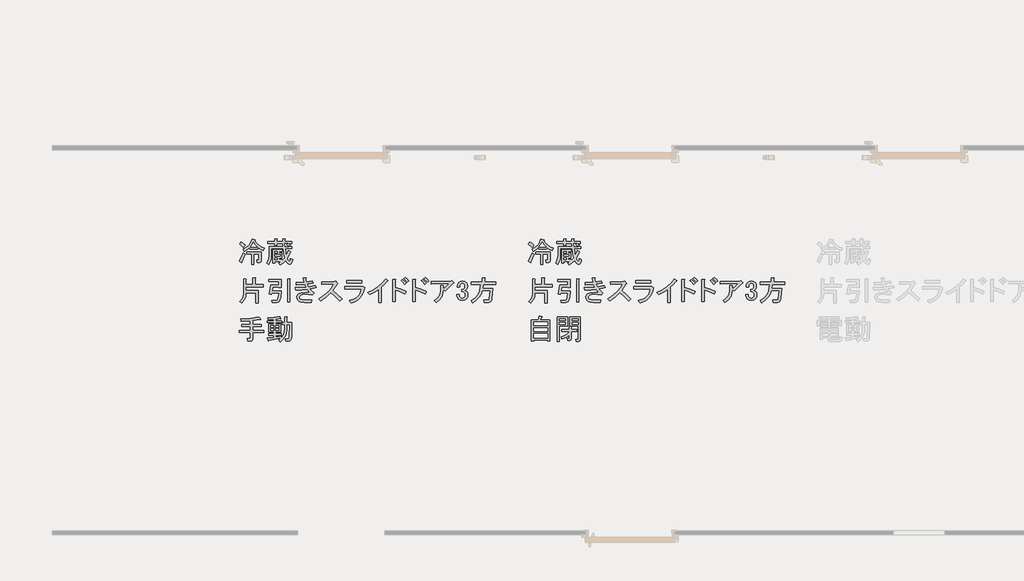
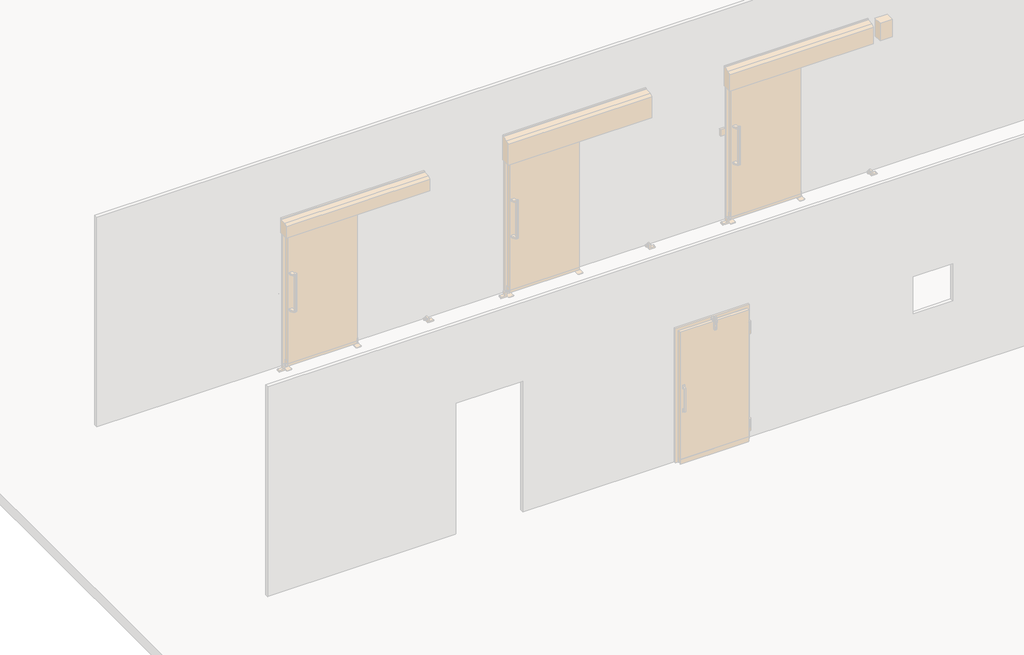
# One storey, part 75 of 117: 2 proxies.
"""IFC4 building model written with IfcOpenShell, lengths in millimetres."""

from ifc_helpers import new_model, si_unit, frame, origin, place, context, project, spatial, polyline, outline, extrude, element, save

model = new_model("IFC4")

# Units and contexts
model_context = context("Model", 3, world=origin())
ifc_project = project(units=[si_unit("LENGTHUNIT", "METRE", prefix="MILLI")], contexts=[model_context])

# Site, building, storey
site = spatial("IfcSite", under=ifc_project)
building = spatial("IfcBuilding", under=site)
storey = spatial("IfcBuildingStorey", under=building, Name="レベル 1", Elevation=500.0)

# Proxies
placement = place(None, origin())
element("IfcBuildingElementProxy", 1, Name="200㎜\u3000MS Pゴシック", ObjectType="200㎜\u3000MS Pゴシック", at=placement, inside=storey, context=model_context, shape_type="SweptSolid", body=[
    extrude(outline(polyline([(-24116.3970532, 22948.5050774), (-24082.7035553, 22967.9021871), (-24056.3378543, 22991.6097656), (-24037.2999504, 23019.6278129), (-24025.5898434, 23051.9563291), (-23994.5544679, 23043.9101206), (-23993.117645, 23040.174381), (-23998.002843, 23038.1628289), (-23979.1804624, 23010.6476696), (-23956.0476131, 22987.874026), (-23928.6042949, 22969.8418981), (-23896.850508, 22956.5512859), (-23908.3450915, 22932.4126605), (-23937.3689149, 22945.9187961), (-23966.9674674, 22965.7469527), (-23966.9674674, 22946.2061607), (-24049.7284688, 22946.2061607), (-24049.7284688, 22964.5974943), (-24074.1544588, 22942.7577856), (-24103.7530113, 22923.2169937), (-24116.3970532, 22948.5050774)]), holes=[polyline([(-23969.2663841, 22968.0458694), (-23995.4165617, 22995.3455052), (-24011.7963432, 23022.0704119), (-24025.5898434, 22993.0465885), (-24046.2800937, 22968.0458694), (-23969.2663841, 22968.0458694)])]), frame((0.0, 0.0, 500.0), z_axis=(0.0, 0.0, 1.0), x_axis=(1.0, 0.0, 0.0)), (0.0, 0.0, 1.0), 25.0),
    extrude(outline(polyline([(-24158.9270122, 22822.0646587), (-24135.9378452, 22861.7209718), (-24117.5465116, 22904.82566), (-24096.8562612, 22892.1816181), (-24114.3855011, 22848.2148362), (-24132.4894701, 22812.8689919), (-24133.0641993, 22806.5469709), (-24137.0873035, 22805.9722417), (-24158.9270122, 22822.0646587)])), frame((0.0, 0.0, 500.0), z_axis=(0.0, 0.0, 1.0), x_axis=(1.0, 0.0, 0.0)), (0.0, 0.0, 1.0), 25.0),
    extrude(outline(polyline([(-24079.6143859, 22897.9289099), (-24079.6143859, 22919.7686186), (-23930.1848002, 22919.7686186), (-23930.1848002, 22825.5130337), (-23934.2079044, 22814.3058148), (-23946.2772171, 22810.5700752), (-23971.5653009, 22810.5700752), (-23976.1631343, 22832.4097838), (-23957.7718006, 22832.4097838), (-23954.3234256, 22833.5592422), (-23953.1739672, 22837.0076172), (-23953.1739672, 22897.9289099), (-24007.1985098, 22897.9289099), (-24007.1985098, 22786.4314498), (-24030.1876768, 22786.4314498), (-24030.1876768, 22897.9289099), (-24079.6143859, 22897.9289099)])), frame((0.0, 0.0, 500.0), z_axis=(0.0, 0.0, 1.0), x_axis=(1.0, 0.0, 0.0)), (0.0, 0.0, 1.0), 25.0),
    extrude(outline(polyline([(-24141.685137, 23022.0704119), (-24120.9948866, 23009.1390055), (-24098.0057196, 22988.7361197), (-24114.0981365, 22965.7469527), (-24155.4786372, 23000.2307032), (-24141.685137, 23022.0704119)])), frame((0.0, 0.0, 500.0), z_axis=(0.0, 0.0, 1.0), x_axis=(1.0, 0.0, 0.0)), (0.0, 0.0, 1.0), 25.0),
    extrude(outline(polyline([(-23711.7877133, 22826.6624921), (-23685.3501712, 22853.1000342), (-23695.4079318, 22900.8025558), (-23700.2931298, 22954.2523692), (-23825.5840901, 22954.2523692), (-23825.5840901, 22879.5375763), (-23827.1645954, 22853.5310811), (-23831.9061111, 22829.536138), (-23839.8086373, 22807.552747), (-23850.8721739, 22787.5809081), (-23871.5624242, 22803.673325), (-23861.5046636, 22821.9209764), (-23854.3205489, 22842.1801798), (-23848.5732572, 22888.7332431), (-23848.5732572, 22976.0920778), (-23701.4425881, 22976.0920778), (-23701.4425881, 22987.5866614), (-23708.3393382, 22987.5866614), (-23708.3393382, 23005.977995), (-23768.1111725, 23005.977995), (-23768.1111725, 22984.1382863), (-23791.1003396, 22984.1382863), (-23791.1003396, 23005.977995), (-23860.0678407, 23005.977995), (-23860.0678407, 23027.8177037), (-23791.1003396, 23027.8177037), (-23791.1003396, 23053.1057874), (-23769.2606309, 23053.1057874), (-23764.3754329, 23050.8068707), (-23768.1111725, 23046.2090373), (-23768.1111725, 23027.8177037), (-23708.3393382, 23027.8177037), (-23708.3393382, 23053.1057874), (-23686.4996295, 23053.1057874), (-23681.6144316, 23050.8068707), (-23685.3501712, 23046.2090373), (-23685.3501712, 23027.8177037), (-23615.2332117, 23027.8177037), (-23615.2332117, 23005.977995), (-23652.015879, 23005.977995), (-23629.0267119, 22989.8855781), (-23642.8202122, 22976.0920778), (-23614.0837534, 22976.0920778), (-23614.0837534, 22954.2523692), (-23678.4534211, 22954.2523692), (-23669.2577543, 22877.2386596), (-23649.7169623, 22932.4126605), (-23626.7277952, 22922.0675353), (-23623.2794202, 22918.3317957), (-23629.0267119, 22916.3202435), (-23642.245483, 22882.4112222), (-23658.9126291, 22849.6516591), (-23646.8433164, 22828.099315), (-23635.9234621, 22820.9152003), (-23631.9003578, 22824.3635754), (-23629.0267119, 22834.7087005), (-23626.7277952, 22849.6516591), (-23604.8880866, 22841.6054507), (-23608.3364616, 22824.3635754), (-23617.819493, 22798.5007625), (-23624.5007197, 22792.0350592), (-23632.475087, 22789.8798248), (-23642.3891653, 22792.394265), (-23652.5906082, 22799.9375854), (-23673.8555877, 22830.1108671), (-23703.4541402, 22802.5238667), (-23730.1790469, 22784.1325331), (-23746.2714639, 22804.8227834), (-23723.2822968, 22818.6162836), (-23789.9508812, 22818.6162836), (-23789.9508812, 22801.3744083), (-23809.4916732, 22801.3744083), (-23809.4916732, 22942.7577856), (-23710.6382549, 22942.7577856), (-23710.6382549, 22924.366452), (-23743.9725471, 22924.366452), (-23743.9725471, 22908.2740351), (-23715.2360883, 22908.2740351), (-23715.2360883, 22855.3989509), (-23743.9725471, 22855.3989509), (-23743.9725471, 22837.0076172), (-23711.7877133, 22837.0076172), (-23711.7877133, 22826.6624921)]), holes=[polyline([(-23680.7523378, 22988.7361197), (-23675.8671398, 22986.1498384), (-23679.6028794, 22982.988828), (-23679.6028794, 22976.0920778), (-23646.2685872, 22976.0920778), (-23669.2577543, 22993.3339531), (-23656.6137124, 23005.977995), (-23685.3501712, 23005.977995), (-23685.3501712, 22988.7361197), (-23680.7523378, 22988.7361197)]), polyline([(-23789.9508812, 22908.2740351), (-23763.5133391, 22908.2740351), (-23763.5133391, 22924.366452), (-23789.9508812, 22924.366452), (-23789.9508812, 22908.2740351)]), polyline([(-23789.9508812, 22873.7902845), (-23734.7768803, 22873.7902845), (-23734.7768803, 22889.8827014), (-23789.9508812, 22889.8827014), (-23789.9508812, 22873.7902845)]), polyline([(-23789.9508812, 22837.0076172), (-23763.5133391, 22837.0076172), (-23763.5133391, 22855.3989509), (-23789.9508812, 22855.3989509), (-23789.9508812, 22837.0076172)])]), frame((0.0, 0.0, 500.0), z_axis=(0.0, 0.0, 1.0), x_axis=(1.0, 0.0, 0.0)), (0.0, 0.0, 1.0), 25.0),
    extrude(outline(polyline([(-24091.1089695, 22637.0133705), (-24085.0743131, 22633.5649954), (-24089.9595111, 22627.8177037), (-24089.9595111, 22579.5404529), (-24018.6930933, 22579.5404529), (-24018.6930933, 22648.507954), (-23993.4050095, 22648.507954), (-23987.3703532, 22645.059579), (-23992.2555512, 22639.3122872), (-23992.2555512, 22579.5404529), (-23907.1956331, 22579.5404529), (-23907.1956331, 22554.2523692), (-24089.9595111, 22554.2523692), (-24089.9595111, 22517.4697019), (-23960.0707173, 22517.4697019), (-23960.0707173, 22388.7303665), (-23986.5082594, 22388.7303665), (-23986.5082594, 22492.1816181), (-24089.9595111, 22492.1816181), (-24089.9595111, 22480.6870346), (-24092.6894747, 22453.7466045), (-24100.8793655, 22429.2487734), (-24114.5291834, 22407.1935412), (-24133.6389285, 22387.5809081), (-24152.0302621, 22405.9722417), (-24134.9320691, 22421.5617706), (-24122.7190741, 22439.5938985), (-24115.3912772, 22460.0686254), (-24112.9486782, 22482.9859513), (-24112.9486782, 22637.0133705), (-24091.1089695, 22637.0133705)])), frame((0.0, 0.0, 500.0), z_axis=(0.0, 0.0, 1.0), x_axis=(1.0, 0.0, 0.0)), (0.0, 0.0, 1.0), 25.0),
    extrude(outline(polyline([(-23719.8339218, 22511.7224101), (-23729.0295886, 22441.8928152), (-23735.3516095, 22419.2628539), (-23742.8230888, 22404.8227834), (-23753.4555786, 22397.0639395), (-23769.2606309, 22394.4776582), (-23815.238965, 22394.4776582), (-23818.68734, 22416.3173669), (-23776.157381, 22416.3173669), (-23765.5248912, 22418.328919), (-23758.9155057, 22424.3635754), (-23750.8692973, 22448.2148362), (-23745.1220055, 22489.8827014), (-23822.1357151, 22489.8827014), (-23824.4346318, 22478.3881179), (-23848.5732572, 22481.836493), (-23832.4808403, 22574.9426195), (-23746.2714639, 22574.9426195), (-23746.2714639, 22611.7252868), (-23852.0216322, 22611.7252868), (-23852.0216322, 22633.5649954), (-23723.2822968, 22633.5649954), (-23723.2822968, 22547.355619), (-23746.2714639, 22547.355619), (-23746.2714639, 22553.1029108), (-23810.6411316, 22553.1029108), (-23817.5378817, 22511.7224101), (-23719.8339218, 22511.7224101)])), frame((0.0, 0.0, 500.0), z_axis=(0.0, 0.0, 1.0), x_axis=(1.0, 0.0, 0.0)), (0.0, 0.0, 1.0), 25.0),
    extrude(outline(polyline([(-23633.6245454, 22396.7765749), (-23656.6137124, 22396.7765749), (-23656.6137124, 22637.0133705), (-23634.7740037, 22637.0133705), (-23629.8888057, 22634.7144538), (-23633.6245454, 22630.1166204), (-23633.6245454, 22396.7765749)])), frame((0.0, 0.0, 500.0), z_axis=(0.0, 0.0, 1.0), x_axis=(1.0, 0.0, 0.0)), (0.0, 0.0, 1.0), 25.0),
    extrude(outline(polyline([(-23453.1595841, 22582.988828), (-23439.3660839, 22554.2523692), (-23366.9502077, 22570.3447861), (-23356.6050825, 22546.2061607), (-23426.722042, 22533.5621188), (-23406.8938854, 22511.147681), (-23381.8931663, 22489.8827014), (-23401.4339582, 22470.3419095), (-23438.5039901, 22477.2386596), (-23466.9530843, 22479.5375763), (-23504.8852099, 22476.0892012), (-23517.8166164, 22471.7787324), (-23526.7249186, 22465.7440761), (-23532.759575, 22457.410503), (-23534.7711271, 22448.5022008), (-23533.0469395, 22438.1570756), (-23527.874377, 22430.1108671), (-23510.3451371, 22423.214117), (-23476.1487511, 22420.9152003), (-23406.0317916, 22420.9152003), (-23410.6296251, 22395.6271166), (-23480.7465845, 22395.6271166), (-23519.8281685, 22400.22495), (-23534.1963979, 22405.9722417), (-23545.1162522, 22414.0184502), (-23555.4613774, 22429.8235025), (-23558.9097525, 22449.6516591), (-23555.748742, 22465.7440761), (-23546.2657106, 22479.5375763), (-23533.9090333, 22488.0866728), (-23516.3797934, 22494.1931703), (-23465.803626, 22499.0783683), (-23424.4231253, 22495.6299932), (-23453.1595841, 22528.9642854), (-23509.7704079, 22523.7917228), (-23571.5537943, 22522.0675353), (-23575.0021694, 22546.2061607), (-23518.103981, 22546.7808899), (-23464.6541676, 22550.8039941), (-23477.2982095, 22579.5404529), (-23565.8065026, 22576.0920778), (-23568.1054193, 22599.0812449), (-23483.0455012, 22601.3801616), (-23492.2411681, 22648.507954), (-23466.9530843, 22648.507954), (-23460.918428, 22645.059579), (-23465.803626, 22639.3122872), (-23460.0563342, 22604.8285366), (-23399.1350415, 22616.3231202), (-23391.0888331, 22593.3339531), (-23453.1595841, 22582.988828)])), frame((0.0, 0.0, 500.0), z_axis=(0.0, 0.0, 1.0), x_axis=(1.0, 0.0, 0.0)), (0.0, 0.0, 1.0), 25.0),
    extrude(outline(polyline([(-23188.7381848, 22517.4697019), (-23139.5988402, 22476.6639304), (-23091.0342249, 22430.1108671), (-23114.0233919, 22410.5700752), (-23161.4385489, 22457.1231384), (-23207.1295184, 22495.6299932), (-23255.1194046, 22449.9390237), (-23309.4313117, 22409.4206168), (-23331.2710204, 22428.9614088), (-23275.8096549, 22468.6177219), (-23231.2681438, 22508.2740351), (-23197.646487, 22547.9303482), (-23174.9446846, 22587.5866614), (-23300.2356449, 22579.5404529), (-23303.68402, 22607.1274534), (-23170.3468511, 22612.8747451), (-23156.5533509, 22616.3231202), (-23138.1620173, 22597.9317865), (-23135.2883714, 22591.322401), (-23142.7598507, 22587.5866614), (-23188.7381848, 22517.4697019)])), frame((0.0, 0.0, 500.0), z_axis=(0.0, 0.0, 1.0), x_axis=(1.0, 0.0, 0.0)), (0.0, 0.0, 1.0), 25.0),
    extrude(outline(polyline([(-23014.7101903, 22411.7195335), (-22965.0679577, 22430.039026), (-22944.8267145, 22442.1622195), (-22927.6387201, 22456.2610446), (-22913.5039744, 22472.3355013), (-22902.4224775, 22490.3855895), (-22894.3942293, 22510.4113092), (-22889.4192299, 22532.4126605), (-23064.1368994, 22532.4126605), (-23064.1368994, 22557.7007442), (-22888.2697716, 22557.7007442), (-22877.9246464, 22561.1491193), (-22857.234396, 22548.5050774), (-22854.3607502, 22543.0451502), (-22859.5333128, 22538.1599522), (-22865.6577705, 22510.6807135), (-22874.8354771, 22485.7159149), (-22887.0664323, 22463.2655565), (-22902.3506364, 22443.3296382), (-22920.6880891, 22425.90816), (-22942.0787907, 22411.001122), (-22966.5227409, 22398.6085242), (-22994.0199399, 22388.7303665), (-23014.7101903, 22411.7195335)])), frame((0.0, 0.0, 500.0), z_axis=(0.0, 0.0, 1.0), x_axis=(1.0, 0.0, 0.0)), (0.0, 0.0, 1.0), 25.0),
    extrude(outline(polyline([(-22884.8213965, 22597.9317865), (-23043.4466491, 22597.9317865), (-23043.4466491, 22623.2198703), (-22884.8213965, 22623.2198703), (-22884.8213965, 22597.9317865)])), frame((0.0, 0.0, 500.0), z_axis=(0.0, 0.0, 1.0), x_axis=(1.0, 0.0, 0.0)), (0.0, 0.0, 1.0), 25.0),
    extrude(outline(polyline([(-22822.3368405, 22496.7794516), (-22765.6541755, 22524.6538166), (-22716.2993075, 22557.7007442), (-22674.2722365, 22595.9202344), (-22639.5729625, 22639.3122872), (-22617.7332538, 22620.9209536), (-22615.1469725, 22614.8862972), (-22625.7794623, 22610.5758284), (-22650.7801814, 22581.552005), (-22682.1029215, 22551.9534525), (-22682.1029215, 22395.6271166), (-22708.5404636, 22395.6271166), (-22708.5404636, 22530.1137438), (-22752.219881, 22500.5151912), (-22802.7960485, 22473.7902845), (-22822.3368405, 22496.7794516)])), frame((0.0, 0.0, 500.0), z_axis=(0.0, 0.0, 1.0), x_axis=(1.0, 0.0, 0.0)), (0.0, 0.0, 1.0), 25.0),
    extrude(outline(polyline([(-22439.6591659, 22581.8393696), (-22459.1999579, 22603.6790783), (-22478.7407499, 22620.9209536), (-22463.7977913, 22632.4155371), (-22444.2569993, 22615.1736618), (-22424.7162073, 22593.3339531), (-22439.6591659, 22581.8393696)])), frame((0.0, 0.0, 500.0), z_axis=(0.0, 0.0, 1.0), x_axis=(1.0, 0.0, 0.0)), (0.0, 0.0, 1.0), 25.0),
    extrude(outline(polyline([(-22412.0721655, 22603.6790783), (-22429.0266762, 22622.9325057), (-22450.0042911, 22641.6112039), (-22435.0613325, 22653.1057874), (-22415.8079051, 22636.7260059), (-22397.1292069, 22615.1736618), (-22412.0721655, 22603.6790783)])), frame((0.0, 0.0, 500.0), z_axis=(0.0, 0.0, 1.0), x_axis=(1.0, 0.0, 0.0)), (0.0, 0.0, 1.0), 25.0),
    extrude(outline(polyline([(-22437.3602492, 22480.6870346), (-22492.8216147, 22506.5498475), (-22537.3631258, 22522.0675353), (-22537.3631258, 22402.5238667), (-22563.8006679, 22402.5238667), (-22563.8006679, 22632.4155371), (-22540.8115009, 22632.4155371), (-22533.052657, 22629.5418912), (-22537.3631258, 22623.2198703), (-22537.3631258, 22550.8039941), (-22480.752302, 22531.8379313), (-22423.566749, 22507.1245767), (-22437.3602492, 22480.6870346)])), frame((0.0, 0.0, 500.0), z_axis=(0.0, 0.0, 1.0), x_axis=(1.0, 0.0, 0.0)), (0.0, 0.0, 1.0), 25.0),
    extrude(outline(polyline([(-22228.4346991, 22480.6870346), (-22283.8960646, 22506.5498475), (-22328.4375758, 22522.0675353), (-22328.4375758, 22402.5238667), (-22354.8751179, 22402.5238667), (-22354.8751179, 22632.4155371), (-22331.8859508, 22632.4155371), (-22324.127107, 22629.5418912), (-22328.4375758, 22623.2198703), (-22328.4375758, 22550.8039941), (-22271.8267519, 22531.8379313), (-22214.6411989, 22507.1245767), (-22228.4346991, 22480.6870346)])), frame((0.0, 0.0, 500.0), z_axis=(0.0, 0.0, 1.0), x_axis=(1.0, 0.0, 0.0)), (0.0, 0.0, 1.0), 25.0),
    extrude(outline(polyline([(-22230.7336159, 22581.8393696), (-22250.2744078, 22603.6790783), (-22269.8151998, 22620.9209536), (-22254.8722412, 22632.4155371), (-22235.3314493, 22615.1736618), (-22215.7906573, 22593.3339531), (-22230.7336159, 22581.8393696)])), frame((0.0, 0.0, 500.0), z_axis=(0.0, 0.0, 1.0), x_axis=(1.0, 0.0, 0.0)), (0.0, 0.0, 1.0), 25.0),
    extrude(outline(polyline([(-22203.1466154, 22603.6790783), (-22220.1011261, 22622.9325057), (-22241.078741, 22641.6112039), (-22226.1357824, 22653.1057874), (-22206.882355, 22636.7260059), (-22188.2036568, 22615.1736618), (-22203.1466154, 22603.6790783)])), frame((0.0, 0.0, 500.0), z_axis=(0.0, 0.0, 1.0), x_axis=(1.0, 0.0, 0.0)), (0.0, 0.0, 1.0), 25.0),
    extrude(outline(polyline([(-22040.1993994, 22530.1137438), (-22044.0069802, 22488.8769254), (-22057.7286393, 22452.525305), (-22081.3643766, 22421.0588826), (-22114.9141923, 22394.4776582), (-22134.4549843, 22416.3173669), (-22104.7845906, 22436.5765704), (-22083.5914522, 22460.5715135), (-22070.8755692, 22488.3021962), (-22066.6369415, 22519.7686186), (-22066.6369415, 22569.1953277), (-22042.4983161, 22569.1953277), (-22036.7510244, 22566.6090464), (-22040.1993994, 22561.1491193), (-22040.1993994, 22531.2632021), (-22003.7040967, 22562.011213), (-21976.9791901, 22592.1844948), (-22164.3409014, 22585.2877447), (-22166.6398181, 22611.7252868), (-21957.4383981, 22617.4725785), (-21949.3921896, 22619.7714952), (-21932.1503143, 22599.0812449), (-21931.8629497, 22595.9202344), (-21937.8976061, 22595.6328698), (-21975.8297317, 22552.240817), (-22020.6586074, 22511.7224101), (-22040.1993994, 22530.1137438)])), frame((0.0, 0.0, 500.0), z_axis=(0.0, 0.0, 1.0), x_axis=(1.0, 0.0, 0.0)), (0.0, 0.0, 1.0), 25.0),
    extrude(outline(polyline([(-21896.0573221, 22556.5512859), (-21891.7468532, 22580.6899113), (-21878.8154468, 22600.2307032), (-21862.1483007, 22611.4379222), (-21842.0327795, 22615.1736618), (-21819.3309771, 22611.4379222), (-21801.8017372, 22600.2307032), (-21791.456612, 22584.1382863), (-21788.008237, 22563.448036), (-21790.8818829, 22543.3325148), (-21799.5028205, 22528.9642854), (-21807.8363936, 22522.6422645), (-21816.7446958, 22519.7686186), (-21797.2039038, 22508.2740351), (-21786.8587786, 22492.1816181), (-21783.4104036, 22471.4913678), (-21787.4335078, 22448.5022008), (-21799.5028205, 22430.1108671), (-21818.7562479, 22418.0415544), (-21844.3316962, 22414.0184502), (-21866.4587695, 22418.0415544), (-21884.5627385, 22430.1108671), (-21896.6320512, 22447.640107), (-21900.6551555, 22468.0429928), (-21900.6551555, 22477.2386596), (-21874.2176134, 22477.2386596), (-21874.2176134, 22469.1924511), (-21871.6313321, 22455.3989509), (-21863.8724882, 22443.9043674), (-21854.964186, 22437.869711), (-21844.3316962, 22435.8581589), (-21830.8255606, 22438.1570756), (-21820.1930708, 22445.0538257), (-21813.2963207, 22456.8357738), (-21810.997404, 22473.7902845), (-21813.2963207, 22488.1585139), (-21820.1930708, 22499.0783683), (-21829.9634668, 22505.9751184), (-21840.8833212, 22508.2740351), (-21850.078988, 22508.2740351), (-21850.078988, 22527.8148271), (-21843.1822379, 22527.8148271), (-21833.1244773, 22530.1137438), (-21823.6414459, 22537.0104939), (-21816.7446958, 22548.2177128), (-21814.4457791, 22563.448036), (-21816.7446958, 22576.9541716), (-21823.6414459, 22587.5866614), (-21831.6876544, 22592.759224), (-21842.0327795, 22594.4834115), (-21851.8031755, 22592.4718594), (-21860.4241132, 22586.437203), (-21867.6082279, 22574.3678903), (-21870.7692383, 22556.5512859), (-21896.0573221, 22556.5512859)])), frame((0.0, 0.0, 500.0), z_axis=(0.0, 0.0, 1.0), x_axis=(1.0, 0.0, 0.0)), (0.0, 0.0, 1.0), 25.0),
    extrude(outline(polyline([(-21630.5324427, 22538.1599522), (-21523.632816, 22538.1599522), (-21535.1273995, 22434.7087005), (-21538.9349803, 22416.6047315), (-21545.7598893, 22403.673325), (-21555.6021264, 22395.9144812), (-21568.4616917, 22393.3281999), (-21614.4400258, 22393.3281999), (-21620.1873176, 22418.6162836), (-21570.7606084, 22418.6162836), (-21564.1512229, 22422.9267524), (-21560.4154833, 22435.8581589), (-21551.2198165, 22516.3202435), (-21633.9808178, 22516.3202435), (-21645.7627659, 22480.8307169), (-21666.1656517, 22447.9274716), (-21695.1894751, 22417.6105076), (-21732.8342361, 22389.8798248), (-21748.926653, 22414.0184502), (-21709.342181, 22440.2404689), (-21680.2465165, 22472.9281908), (-21661.6396594, 22512.0816159), (-21653.5216098, 22557.7007442), (-21652.3721514, 22578.3909946), (-21748.926653, 22578.3909946), (-21748.926653, 22603.6790783), (-21636.2797345, 22603.6790783), (-21636.2797345, 22649.6574124), (-21610.9916508, 22649.6574124), (-21604.9569944, 22646.2090373), (-21609.8421924, 22640.4617456), (-21609.8421924, 22603.6790783), (-21493.7468989, 22603.6790783), (-21493.7468989, 22578.3909946), (-21625.9346093, 22578.3909946), (-21630.5324427, 22538.1599522)])), frame((0.0, 0.0, 500.0), z_axis=(0.0, 0.0, 1.0), x_axis=(1.0, 0.0, 0.0)), (0.0, 0.0, 1.0), 25.0),
    extrude(outline(polyline([(-24141.685137, 22219.7714952), (-24045.418, 22226.0935162), (-23954.3234256, 22242.7606623), (-23939.380467, 22224.3693286), (-23936.7941857, 22217.4725785), (-23945.1277588, 22217.4725785), (-24018.6930933, 22205.977995), (-24018.6930933, 22164.5974943), (-23927.8858835, 22164.5974943), (-23927.8858835, 22142.7577856), (-24018.6930933, 22142.7577856), (-24018.6930933, 22103.6762017), (-23903.7472581, 22103.6762017), (-23903.7472581, 22081.836493), (-24018.6930933, 22081.836493), (-24018.6930933, 22012.8689919), (-24023.5782913, 21997.3513041), (-24029.6847888, 21993.4718822), (-24038.2338853, 21992.1787415), (-24068.1198024, 21992.1787415), (-24073.8670942, 22017.4668253), (-24045.1306354, 22017.4668253), (-24041.6822603, 22020.9152003), (-24041.6822603, 22081.836493), (-24158.9270122, 22081.836493), (-24158.9270122, 22103.6762017), (-24041.6822603, 22103.6762017), (-24041.6822603, 22142.7577856), (-24134.7883868, 22142.7577856), (-24134.7883868, 22164.5974943), (-24041.6822603, 22164.5974943), (-24041.6822603, 22202.5296199), (-24135.9378452, 22197.9317865), (-24141.685137, 22219.7714952)])), frame((0.0, 0.0, 500.0), z_axis=(0.0, 0.0, 1.0), x_axis=(1.0, 0.0, 0.0)), (0.0, 0.0, 1.0), 25.0),
    extrude(outline(polyline([(-23748.5703806, 22007.1217001), (-23724.4317552, 22024.3635754), (-23853.1710906, 22000.22495), (-23855.1826427, 21995.339752), (-23858.9183824, 21996.7765749), (-23865.8151325, 22022.0646587), (-23799.146548, 22030.1108671), (-23799.146548, 22050.8011175), (-23853.1710906, 22050.8011175), (-23853.1710906, 22069.1924511), (-23799.146548, 22069.1924511), (-23799.146548, 22086.4343264), (-23825.5840901, 22086.4343264), (-23850.8721739, 22086.4343264), (-23850.8721739, 22168.0458694), (-23799.146548, 22168.0458694), (-23799.146548, 22184.1382863), (-23865.8151325, 22184.1382863), (-23865.8151325, 22202.5296199), (-23799.146548, 22202.5296199), (-23799.146548, 22216.3231202), (-23856.6194656, 22214.0242035), (-23860.0678407, 22233.5649954), (-23801.7328293, 22236.7260059), (-23739.3747137, 22246.2090373), (-23729.0295886, 22226.6682453), (-23729.0295886, 22222.6451411), (-23735.9263387, 22224.3693286), (-23779.6057561, 22218.6220369), (-23779.6057561, 22202.5296199), (-23716.3855467, 22202.5296199), (-23716.3855467, 22184.1382863), (-23779.6057561, 22184.1382863), (-23779.6057561, 22168.0458694), (-23726.7306719, 22168.0458694), (-23726.7306719, 22086.4343264), (-23779.6057561, 22086.4343264), (-23779.6057561, 22069.1924511), (-23722.1328385, 22069.1924511), (-23722.1328385, 22050.8011175), (-23779.6057561, 22050.8011175), (-23779.6057561, 22033.5592422), (-23722.1328385, 22042.754909), (-23722.1328385, 22026.6624921), (-23707.4772445, 22043.5451616), (-23696.8447547, 22064.3072531), (-23690.2353692, 22088.9487665), (-23687.6490879, 22117.4697019), (-23686.4996295, 22162.2985776), (-23714.08663, 22162.2985776), (-23714.08663, 22184.1382863), (-23686.4996295, 22184.1382863), (-23686.4996295, 22242.7606623), (-23664.6599209, 22242.7606623), (-23659.7747229, 22240.4617456), (-23663.5104625, 22235.8639122), (-23663.5104625, 22184.1382863), (-23612.934295, 22184.1382863), (-23615.2332117, 22032.4097838), (-23617.5321284, 22014.3058148), (-23623.2794202, 22001.3744083), (-23632.475087, 21993.6155645), (-23645.1191289, 21991.0292832), (-23676.1545044, 21991.0292832), (-23679.6028794, 22012.8689919), (-23653.1653373, 22012.8689919), (-23647.0588398, 22014.3776559), (-23642.5328476, 22018.9036482), (-23638.2223788, 22037.0076172), (-23634.7740037, 22162.2985776), (-23663.5104625, 22162.2985776), (-23664.6599209, 22108.2740351), (-23669.4732777, 22070.8447975), (-23682.7638899, 22037.869711), (-23704.5317574, 22009.3487757), (-23734.7768803, 21985.2819914), (-23748.5703806, 22007.1217001)]), holes=[polyline([(-23779.6057561, 22120.9180769), (-23779.6057561, 22100.2278266), (-23746.2714639, 22100.2278266), (-23746.2714639, 22120.9180769), (-23779.6057561, 22120.9180769)]), polyline([(-23779.6057561, 22154.2523692), (-23779.6057561, 22134.7115772), (-23746.2714639, 22134.7115772), (-23746.2714639, 22154.2523692), (-23779.6057561, 22154.2523692)]), polyline([(-23831.3313819, 22120.9180769), (-23831.3313819, 22100.2278266), (-23799.146548, 22100.2278266), (-23799.146548, 22120.9180769), (-23831.3313819, 22120.9180769)]), polyline([(-23831.3313819, 22154.2523692), (-23831.3313819, 22134.7115772), (-23799.146548, 22134.7115772), (-23799.146548, 22154.2523692), (-23831.3313819, 22154.2523692)])]), frame((0.0, 0.0, 500.0), z_axis=(0.0, 0.0, 1.0), x_axis=(1.0, 0.0, 0.0)), (0.0, 0.0, 1.0), 25.0),
])
element("IfcBuildingElementProxy", 2, Name="200㎜\u3000MS Pゴシック", ObjectType="200㎜\u3000MS Pゴシック", at=placement, inside=storey, context=model_context, shape_type="SweptSolid", body=[
    extrude(outline(polyline([(-21116.3970532, 22948.5050774), (-21082.7035553, 22967.9021871), (-21056.3378543, 22991.6097656), (-21037.2999504, 23019.6278129), (-21025.5898434, 23051.9563291), (-20994.5544679, 23043.9101206), (-20993.117645, 23040.174381), (-20998.002843, 23038.1628289), (-20979.1804624, 23010.6476696), (-20956.0476131, 22987.874026), (-20928.6042949, 22969.8418981), (-20896.850508, 22956.5512859), (-20908.3450915, 22932.4126605), (-20937.3689149, 22945.9187961), (-20966.9674674, 22965.7469527), (-20966.9674674, 22946.2061607), (-21049.7284688, 22946.2061607), (-21049.7284688, 22964.5974943), (-21074.1544588, 22942.7577856), (-21103.7530113, 22923.2169937), (-21116.3970532, 22948.5050774)]), holes=[polyline([(-20969.2663841, 22968.0458694), (-20995.4165617, 22995.3455052), (-21011.7963432, 23022.0704119), (-21025.5898434, 22993.0465885), (-21046.2800937, 22968.0458694), (-20969.2663841, 22968.0458694)])]), frame((0.0, 0.0, 500.0), z_axis=(0.0, 0.0, 1.0), x_axis=(1.0, 0.0, 0.0)), (0.0, 0.0, 1.0), 25.0),
    extrude(outline(polyline([(-21158.9270122, 22822.0646587), (-21135.9378452, 22861.7209718), (-21117.5465116, 22904.82566), (-21096.8562612, 22892.1816181), (-21114.3855011, 22848.2148362), (-21132.4894701, 22812.8689919), (-21133.0641993, 22806.5469709), (-21137.0873035, 22805.9722417), (-21158.9270122, 22822.0646587)])), frame((0.0, 0.0, 500.0), z_axis=(0.0, 0.0, 1.0), x_axis=(1.0, 0.0, 0.0)), (0.0, 0.0, 1.0), 25.0),
    extrude(outline(polyline([(-21079.6143859, 22897.9289099), (-21079.6143859, 22919.7686186), (-20930.1848002, 22919.7686186), (-20930.1848002, 22825.5130337), (-20934.2079044, 22814.3058148), (-20946.2772171, 22810.5700752), (-20971.5653009, 22810.5700752), (-20976.1631343, 22832.4097838), (-20957.7718006, 22832.4097838), (-20954.3234256, 22833.5592422), (-20953.1739672, 22837.0076172), (-20953.1739672, 22897.9289099), (-21007.1985098, 22897.9289099), (-21007.1985098, 22786.4314498), (-21030.1876768, 22786.4314498), (-21030.1876768, 22897.9289099), (-21079.6143859, 22897.9289099)])), frame((0.0, 0.0, 500.0), z_axis=(0.0, 0.0, 1.0), x_axis=(1.0, 0.0, 0.0)), (0.0, 0.0, 1.0), 25.0),
    extrude(outline(polyline([(-21141.685137, 23022.0704119), (-21120.9948866, 23009.1390055), (-21098.0057196, 22988.7361197), (-21114.0981365, 22965.7469527), (-21155.4786372, 23000.2307032), (-21141.685137, 23022.0704119)])), frame((0.0, 0.0, 500.0), z_axis=(0.0, 0.0, 1.0), x_axis=(1.0, 0.0, 0.0)), (0.0, 0.0, 1.0), 25.0),
    extrude(outline(polyline([(-20711.7877133, 22826.6624921), (-20685.3501712, 22853.1000342), (-20695.4079318, 22900.8025558), (-20700.2931298, 22954.2523692), (-20825.5840901, 22954.2523692), (-20825.5840901, 22879.5375763), (-20827.1645954, 22853.5310811), (-20831.9061111, 22829.536138), (-20839.8086373, 22807.552747), (-20850.8721739, 22787.5809081), (-20871.5624242, 22803.673325), (-20861.5046636, 22821.9209764), (-20854.3205489, 22842.1801798), (-20848.5732572, 22888.7332431), (-20848.5732572, 22976.0920778), (-20701.4425881, 22976.0920778), (-20701.4425881, 22987.5866614), (-20708.3393382, 22987.5866614), (-20708.3393382, 23005.977995), (-20768.1111725, 23005.977995), (-20768.1111725, 22984.1382863), (-20791.1003396, 22984.1382863), (-20791.1003396, 23005.977995), (-20860.0678407, 23005.977995), (-20860.0678407, 23027.8177037), (-20791.1003396, 23027.8177037), (-20791.1003396, 23053.1057874), (-20769.2606309, 23053.1057874), (-20764.3754329, 23050.8068707), (-20768.1111725, 23046.2090373), (-20768.1111725, 23027.8177037), (-20708.3393382, 23027.8177037), (-20708.3393382, 23053.1057874), (-20686.4996295, 23053.1057874), (-20681.6144316, 23050.8068707), (-20685.3501712, 23046.2090373), (-20685.3501712, 23027.8177037), (-20615.2332117, 23027.8177037), (-20615.2332117, 23005.977995), (-20652.015879, 23005.977995), (-20629.0267119, 22989.8855781), (-20642.8202122, 22976.0920778), (-20614.0837534, 22976.0920778), (-20614.0837534, 22954.2523692), (-20678.4534211, 22954.2523692), (-20669.2577543, 22877.2386596), (-20649.7169623, 22932.4126605), (-20626.7277952, 22922.0675353), (-20623.2794202, 22918.3317957), (-20629.0267119, 22916.3202435), (-20642.245483, 22882.4112222), (-20658.9126291, 22849.6516591), (-20646.8433164, 22828.099315), (-20635.9234621, 22820.9152003), (-20631.9003578, 22824.3635754), (-20629.0267119, 22834.7087005), (-20626.7277952, 22849.6516591), (-20604.8880866, 22841.6054507), (-20608.3364616, 22824.3635754), (-20617.819493, 22798.5007625), (-20624.5007197, 22792.0350592), (-20632.475087, 22789.8798248), (-20642.3891653, 22792.394265), (-20652.5906082, 22799.9375854), (-20673.8555877, 22830.1108671), (-20703.4541402, 22802.5238667), (-20730.1790469, 22784.1325331), (-20746.2714639, 22804.8227834), (-20723.2822968, 22818.6162836), (-20789.9508812, 22818.6162836), (-20789.9508812, 22801.3744083), (-20809.4916732, 22801.3744083), (-20809.4916732, 22942.7577856), (-20710.6382549, 22942.7577856), (-20710.6382549, 22924.366452), (-20743.9725471, 22924.366452), (-20743.9725471, 22908.2740351), (-20715.2360883, 22908.2740351), (-20715.2360883, 22855.3989509), (-20743.9725471, 22855.3989509), (-20743.9725471, 22837.0076172), (-20711.7877133, 22837.0076172), (-20711.7877133, 22826.6624921)]), holes=[polyline([(-20680.7523378, 22988.7361197), (-20675.8671398, 22986.1498384), (-20679.6028794, 22982.988828), (-20679.6028794, 22976.0920778), (-20646.2685872, 22976.0920778), (-20669.2577543, 22993.3339531), (-20656.6137124, 23005.977995), (-20685.3501712, 23005.977995), (-20685.3501712, 22988.7361197), (-20680.7523378, 22988.7361197)]), polyline([(-20789.9508812, 22908.2740351), (-20763.5133391, 22908.2740351), (-20763.5133391, 22924.366452), (-20789.9508812, 22924.366452), (-20789.9508812, 22908.2740351)]), polyline([(-20789.9508812, 22873.7902845), (-20734.7768803, 22873.7902845), (-20734.7768803, 22889.8827014), (-20789.9508812, 22889.8827014), (-20789.9508812, 22873.7902845)]), polyline([(-20789.9508812, 22837.0076172), (-20763.5133391, 22837.0076172), (-20763.5133391, 22855.3989509), (-20789.9508812, 22855.3989509), (-20789.9508812, 22837.0076172)])]), frame((0.0, 0.0, 500.0), z_axis=(0.0, 0.0, 1.0), x_axis=(1.0, 0.0, 0.0)), (0.0, 0.0, 1.0), 25.0),
    extrude(outline(polyline([(-21091.1089695, 22637.0133705), (-21085.0743131, 22633.5649954), (-21089.9595111, 22627.8177037), (-21089.9595111, 22579.5404529), (-21018.6930933, 22579.5404529), (-21018.6930933, 22648.507954), (-20993.4050095, 22648.507954), (-20987.3703532, 22645.059579), (-20992.2555512, 22639.3122872), (-20992.2555512, 22579.5404529), (-20907.1956331, 22579.5404529), (-20907.1956331, 22554.2523692), (-21089.9595111, 22554.2523692), (-21089.9595111, 22517.4697019), (-20960.0707173, 22517.4697019), (-20960.0707173, 22388.7303665), (-20986.5082594, 22388.7303665), (-20986.5082594, 22492.1816181), (-21089.9595111, 22492.1816181), (-21089.9595111, 22480.6870346), (-21092.6894747, 22453.7466045), (-21100.8793655, 22429.2487734), (-21114.5291834, 22407.1935412), (-21133.6389285, 22387.5809081), (-21152.0302621, 22405.9722417), (-21134.9320691, 22421.5617706), (-21122.7190741, 22439.5938985), (-21115.3912772, 22460.0686254), (-21112.9486782, 22482.9859513), (-21112.9486782, 22637.0133705), (-21091.1089695, 22637.0133705)])), frame((0.0, 0.0, 500.0), z_axis=(0.0, 0.0, 1.0), x_axis=(1.0, 0.0, 0.0)), (0.0, 0.0, 1.0), 25.0),
    extrude(outline(polyline([(-20719.8339218, 22511.7224101), (-20729.0295886, 22441.8928152), (-20735.3516095, 22419.2628539), (-20742.8230888, 22404.8227834), (-20753.4555786, 22397.0639395), (-20769.2606309, 22394.4776582), (-20815.238965, 22394.4776582), (-20818.68734, 22416.3173669), (-20776.157381, 22416.3173669), (-20765.5248912, 22418.328919), (-20758.9155057, 22424.3635754), (-20750.8692973, 22448.2148362), (-20745.1220055, 22489.8827014), (-20822.1357151, 22489.8827014), (-20824.4346318, 22478.3881179), (-20848.5732572, 22481.836493), (-20832.4808403, 22574.9426195), (-20746.2714639, 22574.9426195), (-20746.2714639, 22611.7252868), (-20852.0216322, 22611.7252868), (-20852.0216322, 22633.5649954), (-20723.2822968, 22633.5649954), (-20723.2822968, 22547.355619), (-20746.2714639, 22547.355619), (-20746.2714639, 22553.1029108), (-20810.6411316, 22553.1029108), (-20817.5378817, 22511.7224101), (-20719.8339218, 22511.7224101)])), frame((0.0, 0.0, 500.0), z_axis=(0.0, 0.0, 1.0), x_axis=(1.0, 0.0, 0.0)), (0.0, 0.0, 1.0), 25.0),
    extrude(outline(polyline([(-20633.6245454, 22396.7765749), (-20656.6137124, 22396.7765749), (-20656.6137124, 22637.0133705), (-20634.7740037, 22637.0133705), (-20629.8888057, 22634.7144538), (-20633.6245454, 22630.1166204), (-20633.6245454, 22396.7765749)])), frame((0.0, 0.0, 500.0), z_axis=(0.0, 0.0, 1.0), x_axis=(1.0, 0.0, 0.0)), (0.0, 0.0, 1.0), 25.0),
    extrude(outline(polyline([(-20453.1595841, 22582.988828), (-20439.3660839, 22554.2523692), (-20366.9502077, 22570.3447861), (-20356.6050825, 22546.2061607), (-20426.722042, 22533.5621188), (-20406.8938854, 22511.147681), (-20381.8931663, 22489.8827014), (-20401.4339582, 22470.3419095), (-20438.5039901, 22477.2386596), (-20466.9530843, 22479.5375763), (-20504.8852099, 22476.0892012), (-20517.8166164, 22471.7787324), (-20526.7249186, 22465.7440761), (-20532.759575, 22457.410503), (-20534.7711271, 22448.5022008), (-20533.0469395, 22438.1570756), (-20527.874377, 22430.1108671), (-20510.3451371, 22423.214117), (-20476.1487511, 22420.9152003), (-20406.0317916, 22420.9152003), (-20410.6296251, 22395.6271166), (-20480.7465845, 22395.6271166), (-20519.8281685, 22400.22495), (-20534.1963979, 22405.9722417), (-20545.1162522, 22414.0184502), (-20555.4613774, 22429.8235025), (-20558.9097525, 22449.6516591), (-20555.748742, 22465.7440761), (-20546.2657106, 22479.5375763), (-20533.9090333, 22488.0866728), (-20516.3797934, 22494.1931703), (-20465.803626, 22499.0783683), (-20424.4231253, 22495.6299932), (-20453.1595841, 22528.9642854), (-20509.7704079, 22523.7917228), (-20571.5537943, 22522.0675353), (-20575.0021694, 22546.2061607), (-20518.103981, 22546.7808899), (-20464.6541676, 22550.8039941), (-20477.2982095, 22579.5404529), (-20565.8065026, 22576.0920778), (-20568.1054193, 22599.0812449), (-20483.0455012, 22601.3801616), (-20492.2411681, 22648.507954), (-20466.9530843, 22648.507954), (-20460.918428, 22645.059579), (-20465.803626, 22639.3122872), (-20460.0563342, 22604.8285366), (-20399.1350415, 22616.3231202), (-20391.0888331, 22593.3339531), (-20453.1595841, 22582.988828)])), frame((0.0, 0.0, 500.0), z_axis=(0.0, 0.0, 1.0), x_axis=(1.0, 0.0, 0.0)), (0.0, 0.0, 1.0), 25.0),
    extrude(outline(polyline([(-20188.7381848, 22517.4697019), (-20139.5988402, 22476.6639304), (-20091.0342249, 22430.1108671), (-20114.0233919, 22410.5700752), (-20161.4385489, 22457.1231384), (-20207.1295184, 22495.6299932), (-20255.1194046, 22449.9390237), (-20309.4313117, 22409.4206168), (-20331.2710204, 22428.9614088), (-20275.8096549, 22468.6177219), (-20231.2681438, 22508.2740351), (-20197.646487, 22547.9303482), (-20174.9446846, 22587.5866614), (-20300.2356449, 22579.5404529), (-20303.68402, 22607.1274534), (-20170.3468511, 22612.8747451), (-20156.5533509, 22616.3231202), (-20138.1620173, 22597.9317865), (-20135.2883714, 22591.322401), (-20142.7598507, 22587.5866614), (-20188.7381848, 22517.4697019)])), frame((0.0, 0.0, 500.0), z_axis=(0.0, 0.0, 1.0), x_axis=(1.0, 0.0, 0.0)), (0.0, 0.0, 1.0), 25.0),
    extrude(outline(polyline([(-20014.7101903, 22411.7195335), (-19965.0679577, 22430.039026), (-19944.8267145, 22442.1622195), (-19927.6387201, 22456.2610446), (-19913.5039744, 22472.3355013), (-19902.4224775, 22490.3855895), (-19894.3942293, 22510.4113092), (-19889.4192299, 22532.4126605), (-20064.1368994, 22532.4126605), (-20064.1368994, 22557.7007442), (-19888.2697716, 22557.7007442), (-19877.9246464, 22561.1491193), (-19857.234396, 22548.5050774), (-19854.3607502, 22543.0451502), (-19859.5333128, 22538.1599522), (-19865.6577705, 22510.6807135), (-19874.8354771, 22485.7159149), (-19887.0664323, 22463.2655565), (-19902.3506364, 22443.3296382), (-19920.6880891, 22425.90816), (-19942.0787907, 22411.001122), (-19966.5227409, 22398.6085242), (-19994.0199399, 22388.7303665), (-20014.7101903, 22411.7195335)])), frame((0.0, 0.0, 500.0), z_axis=(0.0, 0.0, 1.0), x_axis=(1.0, 0.0, 0.0)), (0.0, 0.0, 1.0), 25.0),
    extrude(outline(polyline([(-19884.8213965, 22597.9317865), (-20043.4466491, 22597.9317865), (-20043.4466491, 22623.2198703), (-19884.8213965, 22623.2198703), (-19884.8213965, 22597.9317865)])), frame((0.0, 0.0, 500.0), z_axis=(0.0, 0.0, 1.0), x_axis=(1.0, 0.0, 0.0)), (0.0, 0.0, 1.0), 25.0),
    extrude(outline(polyline([(-19822.3368405, 22496.7794516), (-19765.6541755, 22524.6538166), (-19716.2993075, 22557.7007442), (-19674.2722365, 22595.9202344), (-19639.5729625, 22639.3122872), (-19617.7332538, 22620.9209536), (-19615.1469725, 22614.8862972), (-19625.7794623, 22610.5758284), (-19650.7801814, 22581.552005), (-19682.1029215, 22551.9534525), (-19682.1029215, 22395.6271166), (-19708.5404636, 22395.6271166), (-19708.5404636, 22530.1137438), (-19752.219881, 22500.5151912), (-19802.7960485, 22473.7902845), (-19822.3368405, 22496.7794516)])), frame((0.0, 0.0, 500.0), z_axis=(0.0, 0.0, 1.0), x_axis=(1.0, 0.0, 0.0)), (0.0, 0.0, 1.0), 25.0),
    extrude(outline(polyline([(-19439.6591659, 22581.8393696), (-19459.1999579, 22603.6790783), (-19478.7407499, 22620.9209536), (-19463.7977913, 22632.4155371), (-19444.2569993, 22615.1736618), (-19424.7162073, 22593.3339531), (-19439.6591659, 22581.8393696)])), frame((0.0, 0.0, 500.0), z_axis=(0.0, 0.0, 1.0), x_axis=(1.0, 0.0, 0.0)), (0.0, 0.0, 1.0), 25.0),
    extrude(outline(polyline([(-19412.0721655, 22603.6790783), (-19429.0266762, 22622.9325057), (-19450.0042911, 22641.6112039), (-19435.0613325, 22653.1057874), (-19415.8079051, 22636.7260059), (-19397.1292069, 22615.1736618), (-19412.0721655, 22603.6790783)])), frame((0.0, 0.0, 500.0), z_axis=(0.0, 0.0, 1.0), x_axis=(1.0, 0.0, 0.0)), (0.0, 0.0, 1.0), 25.0),
    extrude(outline(polyline([(-19437.3602492, 22480.6870346), (-19492.8216147, 22506.5498475), (-19537.3631258, 22522.0675353), (-19537.3631258, 22402.5238667), (-19563.8006679, 22402.5238667), (-19563.8006679, 22632.4155371), (-19540.8115009, 22632.4155371), (-19533.052657, 22629.5418912), (-19537.3631258, 22623.2198703), (-19537.3631258, 22550.8039941), (-19480.752302, 22531.8379313), (-19423.566749, 22507.1245767), (-19437.3602492, 22480.6870346)])), frame((0.0, 0.0, 500.0), z_axis=(0.0, 0.0, 1.0), x_axis=(1.0, 0.0, 0.0)), (0.0, 0.0, 1.0), 25.0),
    extrude(outline(polyline([(-19228.4346991, 22480.6870346), (-19283.8960646, 22506.5498475), (-19328.4375758, 22522.0675353), (-19328.4375758, 22402.5238667), (-19354.8751179, 22402.5238667), (-19354.8751179, 22632.4155371), (-19331.8859508, 22632.4155371), (-19324.127107, 22629.5418912), (-19328.4375758, 22623.2198703), (-19328.4375758, 22550.8039941), (-19271.8267519, 22531.8379313), (-19214.6411989, 22507.1245767), (-19228.4346991, 22480.6870346)])), frame((0.0, 0.0, 500.0), z_axis=(0.0, 0.0, 1.0), x_axis=(1.0, 0.0, 0.0)), (0.0, 0.0, 1.0), 25.0),
    extrude(outline(polyline([(-19230.7336159, 22581.8393696), (-19250.2744078, 22603.6790783), (-19269.8151998, 22620.9209536), (-19254.8722412, 22632.4155371), (-19235.3314493, 22615.1736618), (-19215.7906573, 22593.3339531), (-19230.7336159, 22581.8393696)])), frame((0.0, 0.0, 500.0), z_axis=(0.0, 0.0, 1.0), x_axis=(1.0, 0.0, 0.0)), (0.0, 0.0, 1.0), 25.0),
    extrude(outline(polyline([(-19203.1466154, 22603.6790783), (-19220.1011261, 22622.9325057), (-19241.078741, 22641.6112039), (-19226.1357824, 22653.1057874), (-19206.882355, 22636.7260059), (-19188.2036568, 22615.1736618), (-19203.1466154, 22603.6790783)])), frame((0.0, 0.0, 500.0), z_axis=(0.0, 0.0, 1.0), x_axis=(1.0, 0.0, 0.0)), (0.0, 0.0, 1.0), 25.0),
    extrude(outline(polyline([(-19040.1993994, 22530.1137438), (-19044.0069802, 22488.8769254), (-19057.7286393, 22452.525305), (-19081.3643766, 22421.0588826), (-19114.9141923, 22394.4776582), (-19134.4549843, 22416.3173669), (-19104.7845906, 22436.5765704), (-19083.5914522, 22460.5715135), (-19070.8755692, 22488.3021962), (-19066.6369415, 22519.7686186), (-19066.6369415, 22569.1953277), (-19042.4983161, 22569.1953277), (-19036.7510244, 22566.6090464), (-19040.1993994, 22561.1491193), (-19040.1993994, 22531.2632021), (-19003.7040967, 22562.011213), (-18976.9791901, 22592.1844948), (-19164.3409014, 22585.2877447), (-19166.6398181, 22611.7252868), (-18957.4383981, 22617.4725785), (-18949.3921896, 22619.7714952), (-18932.1503143, 22599.0812449), (-18931.8629497, 22595.9202344), (-18937.8976061, 22595.6328698), (-18975.8297317, 22552.240817), (-19020.6586074, 22511.7224101), (-19040.1993994, 22530.1137438)])), frame((0.0, 0.0, 500.0), z_axis=(0.0, 0.0, 1.0), x_axis=(1.0, 0.0, 0.0)), (0.0, 0.0, 1.0), 25.0),
    extrude(outline(polyline([(-18896.0573221, 22556.5512859), (-18891.7468532, 22580.6899113), (-18878.8154468, 22600.2307032), (-18862.1483007, 22611.4379222), (-18842.0327795, 22615.1736618), (-18819.3309771, 22611.4379222), (-18801.8017372, 22600.2307032), (-18791.456612, 22584.1382863), (-18788.008237, 22563.448036), (-18790.8818829, 22543.3325148), (-18799.5028205, 22528.9642854), (-18807.8363936, 22522.6422645), (-18816.7446958, 22519.7686186), (-18797.2039038, 22508.2740351), (-18786.8587786, 22492.1816181), (-18783.4104036, 22471.4913678), (-18787.4335078, 22448.5022008), (-18799.5028205, 22430.1108671), (-18818.7562479, 22418.0415544), (-18844.3316962, 22414.0184502), (-18866.4587695, 22418.0415544), (-18884.5627385, 22430.1108671), (-18896.6320512, 22447.640107), (-18900.6551555, 22468.0429928), (-18900.6551555, 22477.2386596), (-18874.2176134, 22477.2386596), (-18874.2176134, 22469.1924511), (-18871.6313321, 22455.3989509), (-18863.8724882, 22443.9043674), (-18854.964186, 22437.869711), (-18844.3316962, 22435.8581589), (-18830.8255606, 22438.1570756), (-18820.1930708, 22445.0538257), (-18813.2963207, 22456.8357738), (-18810.997404, 22473.7902845), (-18813.2963207, 22488.1585139), (-18820.1930708, 22499.0783683), (-18829.9634668, 22505.9751184), (-18840.8833212, 22508.2740351), (-18850.078988, 22508.2740351), (-18850.078988, 22527.8148271), (-18843.1822379, 22527.8148271), (-18833.1244773, 22530.1137438), (-18823.6414459, 22537.0104939), (-18816.7446958, 22548.2177128), (-18814.4457791, 22563.448036), (-18816.7446958, 22576.9541716), (-18823.6414459, 22587.5866614), (-18831.6876544, 22592.759224), (-18842.0327795, 22594.4834115), (-18851.8031755, 22592.4718594), (-18860.4241132, 22586.437203), (-18867.6082279, 22574.3678903), (-18870.7692383, 22556.5512859), (-18896.0573221, 22556.5512859)])), frame((0.0, 0.0, 500.0), z_axis=(0.0, 0.0, 1.0), x_axis=(1.0, 0.0, 0.0)), (0.0, 0.0, 1.0), 25.0),
    extrude(outline(polyline([(-18630.5324427, 22538.1599522), (-18523.632816, 22538.1599522), (-18535.1273995, 22434.7087005), (-18538.9349803, 22416.6047315), (-18545.7598893, 22403.673325), (-18555.6021264, 22395.9144812), (-18568.4616917, 22393.3281999), (-18614.4400258, 22393.3281999), (-18620.1873176, 22418.6162836), (-18570.7606084, 22418.6162836), (-18564.1512229, 22422.9267524), (-18560.4154833, 22435.8581589), (-18551.2198165, 22516.3202435), (-18633.9808178, 22516.3202435), (-18645.7627659, 22480.8307169), (-18666.1656517, 22447.9274716), (-18695.1894751, 22417.6105076), (-18732.8342361, 22389.8798248), (-18748.926653, 22414.0184502), (-18709.342181, 22440.2404689), (-18680.2465165, 22472.9281908), (-18661.6396594, 22512.0816159), (-18653.5216098, 22557.7007442), (-18652.3721514, 22578.3909946), (-18748.926653, 22578.3909946), (-18748.926653, 22603.6790783), (-18636.2797345, 22603.6790783), (-18636.2797345, 22649.6574124), (-18610.9916508, 22649.6574124), (-18604.9569944, 22646.2090373), (-18609.8421924, 22640.4617456), (-18609.8421924, 22603.6790783), (-18493.7468989, 22603.6790783), (-18493.7468989, 22578.3909946), (-18625.9346093, 22578.3909946), (-18630.5324427, 22538.1599522)])), frame((0.0, 0.0, 500.0), z_axis=(0.0, 0.0, 1.0), x_axis=(1.0, 0.0, 0.0)), (0.0, 0.0, 1.0), 25.0),
    extrude(outline(polyline([(-21053.1768438, 22211.7252868), (-21042.8317187, 22251.9563291), (-21015.2447182, 22246.2090373), (-21013.8078953, 22242.4732977), (-21018.6930933, 22240.4617456), (-21031.3371352, 22211.7252868), (-20933.6331752, 22211.7252868), (-20933.6331752, 21994.4776582), (-20956.6223423, 21994.4776582), (-20956.6223423, 22004.8227834), (-21101.4540946, 22004.8227834), (-21101.4540946, 21991.0292832), (-21124.4432617, 21991.0292832), (-21124.4432617, 22211.7252868), (-21053.1768438, 22211.7252868)]), holes=[polyline([(-20956.6223423, 22151.9534525), (-20956.6223423, 22189.8855781), (-21101.4540946, 22189.8855781), (-21101.4540946, 22151.9534525), (-20956.6223423, 22151.9534525)]), polyline([(-20956.6223423, 22130.1137438), (-21101.4540946, 22130.1137438), (-21101.4540946, 22091.0321598), (-20956.6223423, 22091.0321598), (-20956.6223423, 22130.1137438)]), polyline([(-20956.6223423, 22026.6624921), (-20956.6223423, 22069.1924511), (-21101.4540946, 22069.1924511), (-21101.4540946, 22026.6624921), (-20956.6223423, 22026.6624921)])]), frame((0.0, 0.0, 500.0), z_axis=(0.0, 0.0, 1.0), x_axis=(1.0, 0.0, 0.0)), (0.0, 0.0, 1.0), 25.0),
    extrude(outline(polyline([(-20856.6194656, 21987.5809081), (-20856.6194656, 22241.6112039), (-20748.5703806, 22241.6112039), (-20748.5703806, 22147.355619), (-20833.6302986, 22147.355619), (-20833.6302986, 21987.5809081), (-20856.6194656, 21987.5809081)]), holes=[polyline([(-20833.6302986, 22185.2877447), (-20833.6302986, 22165.7469527), (-20771.5595476, 22165.7469527), (-20771.5595476, 22185.2877447), (-20833.6302986, 22185.2877447)]), polyline([(-20833.6302986, 22223.2198703), (-20833.6302986, 22203.6790783), (-20771.5595476, 22203.6790783), (-20771.5595476, 22223.2198703), (-20833.6302986, 22223.2198703)])]), frame((0.0, 0.0, 500.0), z_axis=(0.0, 0.0, 1.0), x_axis=(1.0, 0.0, 0.0)), (0.0, 0.0, 1.0), 25.0),
    extrude(outline(polyline([(-20733.627422, 22089.8827014), (-20809.4916732, 22089.8827014), (-20809.4916732, 22111.7224101), (-20733.627422, 22111.7224101), (-20733.627422, 22141.6083273), (-20711.7877133, 22141.6083273), (-20706.9025153, 22139.3094106), (-20710.6382549, 22134.7115772), (-20710.6382549, 22111.7224101), (-20656.6137124, 22111.7224101), (-20656.6137124, 22089.8827014), (-20710.6382549, 22089.8827014), (-20710.6382549, 22015.1679086), (-20715.2360883, 22001.3744083), (-20729.0295886, 21996.7765749), (-20747.4209222, 21996.7765749), (-20753.168214, 22018.6162836), (-20737.075797, 22018.6162836), (-20733.627422, 22022.0646587), (-20733.627422, 22056.5484092), (-20764.9501621, 22032.1224193), (-20808.3422149, 22011.7195335), (-20816.3884233, 22034.7087005), (-20768.1111725, 22057.410503), (-20749.1451097, 22071.1321621), (-20733.627422, 22086.4343264), (-20733.627422, 22089.8827014)])), frame((0.0, 0.0, 500.0), z_axis=(0.0, 0.0, 1.0), x_axis=(1.0, 0.0, 0.0)), (0.0, 0.0, 1.0), 25.0),
    extrude(outline(polyline([(-20724.4317552, 22241.6112039), (-20616.3826701, 22241.6112039), (-20616.3826701, 22005.9722417), (-20620.9805035, 21992.1787415), (-20634.7740037, 21987.5809081), (-20657.7631707, 21987.5809081), (-20662.3610042, 22009.4206168), (-20642.8202122, 22009.4206168), (-20639.3718371, 22012.8689919), (-20639.3718371, 22147.355619), (-20681.9017961, 22147.355619), (-20724.4317552, 22147.355619), (-20724.4317552, 22241.6112039)]), holes=[polyline([(-20701.4425881, 22223.2198703), (-20701.4425881, 22203.6790783), (-20639.3718371, 22203.6790783), (-20639.3718371, 22223.2198703), (-20701.4425881, 22223.2198703)]), polyline([(-20701.4425881, 22185.2877447), (-20701.4425881, 22165.7469527), (-20639.3718371, 22165.7469527), (-20639.3718371, 22185.2877447), (-20701.4425881, 22185.2877447)])]), frame((0.0, 0.0, 500.0), z_axis=(0.0, 0.0, 1.0), x_axis=(1.0, 0.0, 0.0)), (0.0, 0.0, 1.0), 25.0),
])

save(model, "model.ifc")
